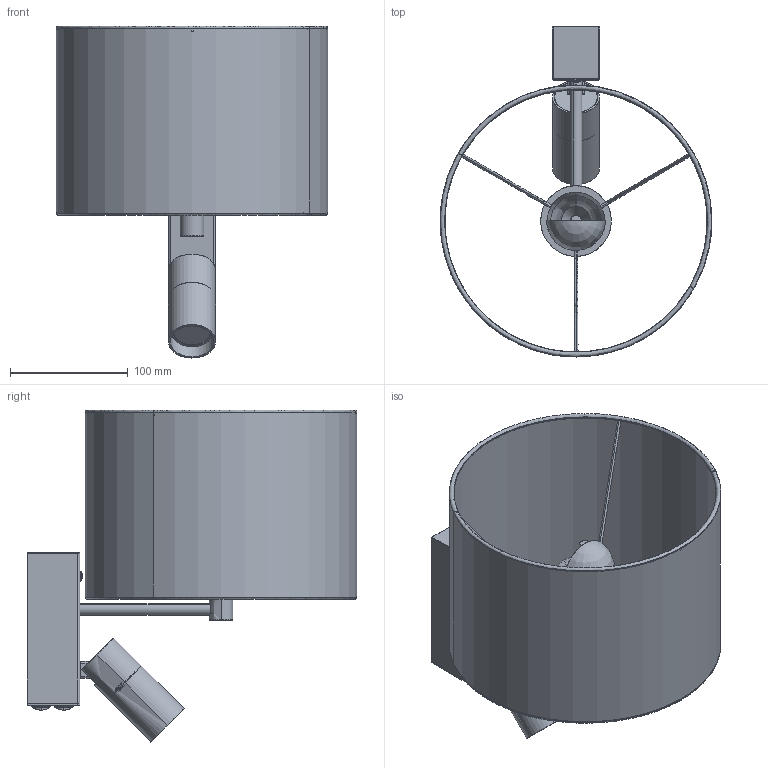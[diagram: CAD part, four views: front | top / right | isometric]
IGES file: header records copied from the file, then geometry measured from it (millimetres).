
Start section: SolidWorks IGES file using analytic representation for surfaces
Global section: file name: C:\Users\anna.bielnik\Desktop\kinkiet LUSSO pm\LUSSO - z³o¿enie PM.IGS; native system: SolidWorks 2024; preprocessor: SolidWorks 2024; author: anna.bielnik; date: 250210.105339; units: millimetre
Bounding box: 231 x 280.5 x 282.22 mm (x, y, z)
Surface area: 378211.3 mm2 (no closed solid volume)
Topology: 0 solids, 0 shells, 613 faces, 7007 edges, 7003 vertices
Faces by surface type: bspline 434, revolution 179
